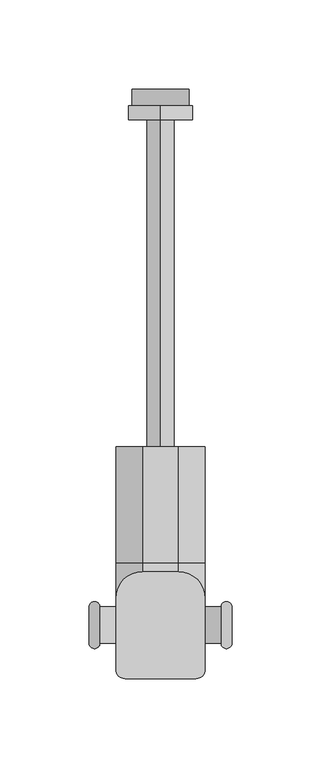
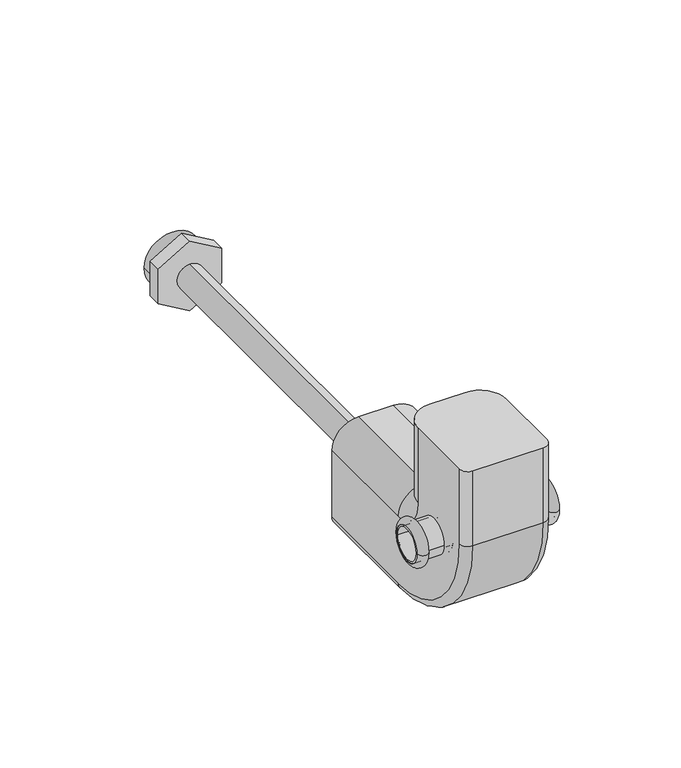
"""IFC4 building model written with IfcOpenShell, lengths in millimetres: pipe fitting geometry."""

from ifc_helpers import new_model, si_unit, point, frame, origin, place, context, project, spatial, polyline, circle_curve, ellipse_curve, trimmed, outline, extrude, source, transform, mapped, element, save
from ifc_brep_helpers import plane_surface, cylinder_surface, revolved_surface, advanced_brep


def pipe_fitting_d5600d2a(model_context):
    return source(origin(), model_context, "Body", "SolidModel", [
        extrude(outline(polyline([(-35.3923048, -18.0), (-45.7846097, 0.0), (-35.3923048, 18.0), (-14.6076952, 18.0), (-4.2153903, 0.0), (-14.6076952, -18.0), (-35.3923048, -18.0)])), frame((0.0, 282.8269269, 0.0), z_axis=(0.0, 1.0, 0.0), x_axis=(0.0, 0.0, 1.0)), (0.0, 0.0, 1.0), 8.0),
        advanced_brep(
        [(-16.0, 290.8269269, -25.0), (16.0, 290.8269269, -25.0), (0.0, 290.8269269, -25.0), (-16.0, 300.0, -25.0), (16.0, 300.0, -25.0), (0.0, 300.0, -25.0)],
        [
            (0, 1, circle_curve(frame((0.0, 290.8269269, -25.0), z_axis=(0.0, -1.0, 0.0), x_axis=(1.0, 0.0, 0.0)), 16.0)),
            (1, 2),
            (2, 0),
            (1, 0, circle_curve(frame((0.0, 290.8269269, -25.0), z_axis=(0.0, -1.0, 0.0), x_axis=(1.0, 0.0, 0.0)), 16.0)),
            (3, 4, circle_curve(frame((0.0, 300.0, -25.0), z_axis=(0.0, -1.0, 0.0), x_axis=(1.0, 0.0, 0.0)), 16.0)),
            (4, 1),
            (0, 3),
            (4, 3, circle_curve(frame((0.0, 300.0, -25.0), z_axis=(0.0, -1.0, 0.0), x_axis=(1.0, 0.0, 0.0)), 16.0)),
            (5, 4),
            (3, 5),
        ],
        [
            plane_surface(frame((0.0, 290.8269269, -25.0), z_axis=(0.0, -1.0, 0.0), x_axis=(1.0, 0.0, 0.0))),
            cylinder_surface(frame((0.0, -1709.1730731, -25.0), z_axis=(0.0, 1.0, 0.0), x_axis=(1.0, 0.0, 0.0)), 16.0),
            plane_surface(frame((0.0, 300.0, -25.0), z_axis=(0.0, 1.0, 0.0), x_axis=(1.0, 0.0, 0.0))),
        ],
        [
            (0, [[1, 2, 3]]),
            (0, [[4, -3, -2]]),
            (1, [[5, 6, -1, 7]]),
            (1, [[8, -7, -4, -6]]),
            (2, [[9, -5, 10]]),
            (2, [[-10, -8, -9]]),
        ],
    ),
        advanced_brep(
        [(40.0, 10.2, 0.0), (33.9987073, 10.2, 0.0), (33.9987073, -10.2, 0.0), (40.0, -10.2, 0.0)],
        [
            (0, 1),
            (1, 2, circle_curve(frame((33.9987073, 0.0, 0.0), z_axis=(-1.0, 0.0, 0.0), x_axis=(0.0, -1.0, 0.0)), 10.2)),
            (2, 3),
            (3, 0, circle_curve(frame((40.0, 0.0, 0.0), z_axis=(1.0, 0.0, 0.0), x_axis=(0.0, -1.0, 0.0)), 10.2)),
            (2, 1, circle_curve(frame((33.9987073, 0.0, 0.0), z_axis=(-1.0, 0.0, 0.0), x_axis=(0.0, -1.0, 0.0)), 10.2)),
            (0, 3, circle_curve(frame((40.0, 0.0, 0.0), z_axis=(1.0, 0.0, 0.0), x_axis=(0.0, -1.0, 0.0)), 10.2)),
            (1, 0, circle_curve(frame((36.9993536, 10.2, 0.0), z_axis=(0.0, 0.0, -1.0), x_axis=(1.0, 0.0, 0.0)), 3.0006464)),
            (3, 2, circle_curve(frame((36.9993536, -10.2, 0.0), z_axis=(0.0, 0.0, -1.0), x_axis=(1.0, 0.0, 0.0)), 3.0006464)),
        ],
        [
            revolved_surface(polyline([(33.9987073, -10.2, 0.0), (40.0, -10.2, 0.0)]), (20.0, 0.0, 0.0), (-1.0, 0.0, 0.0)),
            revolved_surface(trimmed(ellipse_curve(frame((36.9993536, -10.2, 0.0), z_axis=(0.0, 0.0, -1.0), x_axis=(1.0, 0.0, 0.0)), 3.0006464, 3.0006464), [point((40.0, -10.2, 0.0))], [point((33.9987073, -10.2, 0.0))], True, "CARTESIAN"), (20.0, 0.0, 0.0), (-1.0, 0.0, 0.0)),
        ],
        [
            (0, [[1, 2, 3, 4]]),
            (0, [[-3, 5, -1, 6]]),
            (1, [[7, -4, 8, -2]]),
            (1, [[-8, -6, -7, -5]]),
        ],
    ),
        advanced_brep(
        [(40.0, 9.0, 0.0), (19.0, 9.0, 0.0), (19.0, -9.0, 0.0), (40.0, -9.0, 0.0), (40.0, 10.2, 0.0), (40.0, -10.2, 0.0), (20.0, 10.2, 0.0), (20.0, -10.2, 0.0)],
        [
            (0, 1),
            (1, 2, circle_curve(frame((19.0, 0.0, 0.0), z_axis=(-1.0, 0.0, 0.0), x_axis=(0.0, -1.0, 0.0)), 9.0)),
            (2, 3),
            (3, 0, circle_curve(frame((40.0, 0.0, 0.0), z_axis=(1.0, 0.0, 0.0), x_axis=(0.0, -1.0, 0.0)), 9.0)),
            (2, 1, circle_curve(frame((19.0, 0.0, 0.0), z_axis=(-1.0, 0.0, 0.0), x_axis=(0.0, -1.0, 0.0)), 9.0)),
            (0, 3, circle_curve(frame((40.0, 0.0, 0.0), z_axis=(1.0, 0.0, 0.0), x_axis=(0.0, -1.0, 0.0)), 9.0)),
            (4, 0),
            (3, 5),
            (5, 4, circle_curve(frame((40.0, 0.0, 0.0), z_axis=(1.0, 0.0, 0.0), x_axis=(0.0, -1.0, 0.0)), 10.2)),
            (4, 5, circle_curve(frame((40.0, 0.0, 0.0), z_axis=(1.0, 0.0, 0.0), x_axis=(0.0, -1.0, 0.0)), 10.2)),
            (6, 4),
            (5, 7),
            (7, 6, circle_curve(frame((20.0, 0.0, 0.0), z_axis=(1.0, 0.0, 0.0), x_axis=(0.0, -1.0, 0.0)), 10.2)),
            (6, 7, circle_curve(frame((20.0, 0.0, 0.0), z_axis=(1.0, 0.0, 0.0), x_axis=(0.0, -1.0, 0.0)), 10.2)),
            (1, 6),
            (7, 2),
        ],
        [
            revolved_surface(polyline([(19.0, -9.0, 0.0), (40.0, -9.0, 0.0)]), (20.0, 0.0, 0.0), (-1.0, 0.0, 0.0)),
            plane_surface(frame((40.0, 0.0, 0.0), z_axis=(1.0, 0.0, 0.0), x_axis=(0.0, -1.0, 0.0))),
            cylinder_surface(frame((20.0, 0.0, 0.0), z_axis=(-1.0, 0.0, 0.0), x_axis=(0.0, -1.0, 0.0)), 10.2),
            revolved_surface(polyline([(20.0, -10.2, 0.0), (19.0, -9.0, 0.0)]), (20.0, 0.0, 0.0), (-1.0, 0.0, 0.0)),
        ],
        [
            (0, [[1, 2, 3, 4]]),
            (0, [[-3, 5, -1, 6]]),
            (1, [[7, -4, 8, 9]]),
            (1, [[-8, -6, -7, 10]]),
            (2, [[11, -9, 12, 13]]),
            (2, [[-12, -10, -11, 14]]),
            (3, [[15, -13, 16, -2]]),
            (3, [[-16, -14, -15, -5]]),
        ],
    ),
        advanced_brep(
        [(-40.0, 10.2, 0.0), (-40.0, -10.2, 0.0), (-33.9987073, -10.2, 0.0), (-33.9987073, 10.2, 0.0)],
        [
            (0, 1, circle_curve(frame((-40.0, 0.0, 0.0), z_axis=(-1.0, 0.0, 0.0), x_axis=(0.0, -1.0, 0.0)), 10.2)),
            (1, 2),
            (2, 3, circle_curve(frame((-33.9987073, 0.0, 0.0), z_axis=(1.0, 0.0, 0.0), x_axis=(0.0, -1.0, 0.0)), 10.2)),
            (3, 0),
            (1, 0, circle_curve(frame((-40.0, 0.0, 0.0), z_axis=(-1.0, 0.0, 0.0), x_axis=(0.0, -1.0, 0.0)), 10.2)),
            (3, 2, circle_curve(frame((-33.9987073, 0.0, 0.0), z_axis=(1.0, 0.0, 0.0), x_axis=(0.0, -1.0, 0.0)), 10.2)),
            (2, 1, circle_curve(frame((-36.9993536, -10.2, 0.0), z_axis=(0.0, 0.0, -1.0), x_axis=(-1.0, 0.0, 0.0)), 3.0006464)),
            (0, 3, circle_curve(frame((-36.9993536, 10.2, 0.0), z_axis=(0.0, 0.0, -1.0), x_axis=(-1.0, 0.0, 0.0)), 3.0006464)),
        ],
        [
            revolved_surface(polyline([(-33.9987073, -10.2, 0.0), (-40.0, -10.2, 0.0)]), (-20.0, 0.0, 0.0), (1.0, 0.0, 0.0)),
            revolved_surface(trimmed(ellipse_curve(frame((-36.9993536, -10.2, 0.0), z_axis=(0.0, 0.0, 1.0), x_axis=(-1.0, 0.0, 0.0)), 3.0006464, 3.0006464), [point((-40.0, -10.2, 0.0))], [point((-33.9987073, -10.2, 0.0))], True, "CARTESIAN"), (-20.0, 0.0, 0.0), (1.0, 0.0, 0.0)),
        ],
        [
            (0, [[1, 2, 3, 4]]),
            (0, [[5, -4, 6, -2]]),
            (1, [[-3, 7, -1, 8]]),
            (1, [[-6, -8, -5, -7]]),
        ],
    ),
        advanced_brep(
        [(-40.0, 9.0, 0.0), (-40.0, -9.0, 0.0), (-19.0, -9.0, 0.0), (-19.0, 9.0, 0.0), (-40.0, 10.2, 0.0), (-40.0, -10.2, 0.0), (-20.0, 10.2, 0.0), (-20.0, -10.2, 0.0)],
        [
            (0, 1, circle_curve(frame((-40.0, 0.0, 0.0), z_axis=(-1.0, 0.0, 0.0), x_axis=(0.0, -1.0, 0.0)), 9.0)),
            (1, 2),
            (2, 3, circle_curve(frame((-19.0, 0.0, 0.0), z_axis=(1.0, 0.0, 0.0), x_axis=(0.0, -1.0, 0.0)), 9.0)),
            (3, 0),
            (1, 0, circle_curve(frame((-40.0, 0.0, 0.0), z_axis=(-1.0, 0.0, 0.0), x_axis=(0.0, -1.0, 0.0)), 9.0)),
            (3, 2, circle_curve(frame((-19.0, 0.0, 0.0), z_axis=(1.0, 0.0, 0.0), x_axis=(0.0, -1.0, 0.0)), 9.0)),
            (4, 5, circle_curve(frame((-40.0, 0.0, 0.0), z_axis=(-1.0, 0.0, 0.0), x_axis=(0.0, -1.0, 0.0)), 10.2)),
            (5, 1),
            (0, 4),
            (5, 4, circle_curve(frame((-40.0, 0.0, 0.0), z_axis=(-1.0, 0.0, 0.0), x_axis=(0.0, -1.0, 0.0)), 10.2)),
            (6, 7, circle_curve(frame((-20.0, 0.0, 0.0), z_axis=(-1.0, 0.0, 0.0), x_axis=(0.0, -1.0, 0.0)), 10.2)),
            (7, 5),
            (4, 6),
            (7, 6, circle_curve(frame((-20.0, 0.0, 0.0), z_axis=(-1.0, 0.0, 0.0), x_axis=(0.0, -1.0, 0.0)), 10.2)),
            (2, 7),
            (6, 3),
        ],
        [
            revolved_surface(polyline([(-19.0, -9.0, 0.0), (-40.0, -9.0, 0.0)]), (-20.0, 0.0, 0.0), (1.0, 0.0, 0.0)),
            plane_surface(frame((-40.0, 0.0, 0.0), z_axis=(-1.0, 0.0, 0.0), x_axis=(0.0, -1.0, 0.0))),
            cylinder_surface(frame((-20.0, 0.0, 0.0), z_axis=(1.0, 0.0, 0.0), x_axis=(0.0, -1.0, 0.0)), 10.2),
            revolved_surface(polyline([(-20.0, -10.2, 0.0), (-19.0, -9.0, 0.0)]), (-20.0, 0.0, 0.0), (1.0, 0.0, 0.0)),
        ],
        [
            (0, [[1, 2, 3, 4]]),
            (0, [[5, -4, 6, -2]]),
            (1, [[7, 8, -1, 9]]),
            (1, [[10, -9, -5, -8]]),
            (2, [[11, 12, -7, 13]]),
            (2, [[14, -13, -10, -12]]),
            (3, [[-3, 15, -11, 16]]),
            (3, [[-6, -16, -14, -15]]),
        ],
    ),
        advanced_brep(
        [(10.0, 100.0, 5.0), (25.0, 100.0, -10.0), (25.0, 100.0, -50.0), (20.0, 100.0, -55.0), (-20.0, 100.0, -55.0), (-25.0, 100.0, -50.0), (-25.0, 100.0, -10.0), (-10.0, 100.0, 5.0), (10.0, 35.0, 5.0), (25.0, 35.0, -10.0), (25.0, 15.0, 10.0), (25.0, 15.0, 55.0), (25.0, -25.0, 55.0), (25.0, -25.0, 10.0), (25.0, 35.0, -50.0), (25.0, 7.5, 0.0), (25.0, -7.5, 0.0), (20.0, 35.0, -55.0), (-20.0, 35.0, -55.0), (-25.0, 35.0, -50.0), (-25.0, -25.0, 10.0), (-25.0, -25.0, 55.0), (-25.0, 15.0, 55.0), (-25.0, 15.0, 10.0), (-25.0, 35.0, -10.0), (-25.0, -7.5, 0.0), (-25.0, 7.5, 0.0), (-10.0, 35.0, 5.0), (10.0, 30.0, 10.0), (20.0, -30.0, 10.0), (-20.0, -30.0, 10.0), (-10.0, 30.0, 10.0), (10.0, 30.0, 55.0), (-10.0, 30.0, 55.0), (-20.0, -30.0, 55.0), (20.0, -30.0, 55.0), (20.0, 7.5, 0.0), (20.0, -7.5, 0.0), (20.0, 0.0, 0.0), (-20.0, -7.5, 0.0), (-20.0, 0.0, 0.0), (-20.0, 7.5, 0.0)],
        [
            (0, 1, circle_curve(frame((10.0, 100.0, -10.0), z_axis=(0.0, 1.0, 0.0), x_axis=(0.0, 0.0, -1.0)), 15.0)),
            (1, 2),
            (2, 3, circle_curve(frame((20.0, 100.0, -50.0), z_axis=(0.0, 1.0, 0.0), x_axis=(0.0, 0.0, -1.0)), 5.0)),
            (3, 4),
            (4, 5, circle_curve(frame((-20.0, 100.0, -50.0), z_axis=(0.0, 1.0, 0.0), x_axis=(0.0, 0.0, -1.0)), 5.0)),
            (5, 6),
            (6, 7, circle_curve(frame((-10.0, 100.0, -10.0), z_axis=(0.0, 1.0, 0.0), x_axis=(0.0, 0.0, -1.0)), 15.0)),
            (7, 0),
            (0, 8),
            (8, 9, circle_curve(frame((10.0, 35.0, -10.0), z_axis=(0.0, 1.0, 0.0), x_axis=(0.0, 0.0, -1.0)), 15.0)),
            (9, 1),
            (9, 10, circle_curve(frame((25.0, 35.0, 10.0), z_axis=(-1.0, 0.0, 0.0), x_axis=(0.0, 0.0, -1.0)), 20.0)),
            (10, 11),
            (11, 12),
            (12, 13),
            (13, 14, circle_curve(frame((25.0, 35.0, 10.0), z_axis=(1.0, 0.0, 0.0), x_axis=(0.0, 0.0, -1.0)), 60.0)),
            (14, 2),
            (15, 16, circle_curve(frame((25.0, 0.0, 0.0), z_axis=(-1.0, 0.0, 0.0), x_axis=(0.0, 1.0, 0.0)), 7.5)),
            (16, 15, circle_curve(frame((25.0, 0.0, 0.0), z_axis=(-1.0, 0.0, 0.0), x_axis=(0.0, 1.0, 0.0)), 7.5)),
            (14, 17, circle_curve(frame((20.0, 35.0, -50.0), z_axis=(0.0, 1.0, 0.0), x_axis=(0.0, 0.0, -1.0)), 5.0)),
            (17, 3),
            (17, 18),
            (18, 4),
            (18, 19, circle_curve(frame((-20.0, 35.0, -50.0), z_axis=(0.0, 1.0, 0.0), x_axis=(0.0, 0.0, -1.0)), 5.0)),
            (19, 5),
            (19, 20, circle_curve(frame((-25.0, 35.0, 10.0), z_axis=(-1.0, 0.0, 0.0), x_axis=(0.0, 0.0, -1.0)), 60.0)),
            (20, 21),
            (21, 22),
            (22, 23),
            (23, 24, circle_curve(frame((-25.0, 35.0, 10.0), z_axis=(1.0, 0.0, 0.0), x_axis=(0.0, 0.0, -1.0)), 20.0)),
            (24, 6),
            (25, 26, circle_curve(frame((-25.0, 0.0, 0.0), z_axis=(1.0, 0.0, 0.0), x_axis=(0.0, 1.0, 0.0)), 7.5)),
            (26, 25, circle_curve(frame((-25.0, 0.0, 0.0), z_axis=(1.0, 0.0, 0.0), x_axis=(0.0, 1.0, 0.0)), 7.5)),
            (24, 27, circle_curve(frame((-10.0, 35.0, -10.0), z_axis=(0.0, 1.0, 0.0), x_axis=(0.0, 0.0, -1.0)), 15.0)),
            (27, 7),
            (27, 8),
            (8, 28, circle_curve(frame((10.0, 35.0, 10.0), z_axis=(-1.0, 0.0, 0.0), x_axis=(0.0, 0.0, -1.0)), 5.0)),
            (28, 10, circle_curve(frame((10.0, 15.0, 10.0), z_axis=(0.0, 0.0, -1.0), x_axis=(0.0, -1.0, 0.0)), 15.0)),
            (13, 29, circle_curve(frame((20.0, -25.0, 10.0), z_axis=(0.0, 0.0, -1.0), x_axis=(0.0, -1.0, 0.0)), 5.0)),
            (29, 17, circle_curve(frame((20.0, 35.0, 10.0), z_axis=(1.0, 0.0, 0.0), x_axis=(0.0, 0.0, -1.0)), 65.0)),
            (29, 30),
            (30, 18, circle_curve(frame((-20.0, 35.0, 10.0), z_axis=(1.0, 0.0, 0.0), x_axis=(0.0, 0.0, -1.0)), 65.0)),
            (30, 20, circle_curve(frame((-20.0, -25.0, 10.0), z_axis=(0.0, 0.0, -1.0), x_axis=(0.0, -1.0, 0.0)), 5.0)),
            (23, 31, circle_curve(frame((-10.0, 15.0, 10.0), z_axis=(0.0, 0.0, -1.0), x_axis=(0.0, -1.0, 0.0)), 15.0)),
            (31, 27, circle_curve(frame((-10.0, 35.0, 10.0), z_axis=(1.0, 0.0, 0.0), x_axis=(0.0, 0.0, -1.0)), 5.0)),
            (31, 28),
            (11, 32, circle_curve(frame((10.0, 15.0, 55.0), z_axis=(0.0, 0.0, 1.0), x_axis=(0.0, -1.0, 0.0)), 15.0)),
            (32, 33),
            (33, 22, circle_curve(frame((-10.0, 15.0, 55.0), z_axis=(0.0, 0.0, 1.0), x_axis=(0.0, -1.0, 0.0)), 15.0)),
            (21, 34, circle_curve(frame((-20.0, -25.0, 55.0), z_axis=(0.0, 0.0, 1.0), x_axis=(0.0, -1.0, 0.0)), 5.0)),
            (34, 35),
            (35, 12, circle_curve(frame((20.0, -25.0, 55.0), z_axis=(0.0, 0.0, 1.0), x_axis=(0.0, -1.0, 0.0)), 5.0)),
            (28, 32),
            (35, 29),
            (34, 30),
            (33, 31),
            (36, 37, circle_curve(frame((20.0, 0.0, 0.0), z_axis=(-1.0, 0.0, 0.0), x_axis=(0.0, 1.0, 0.0)), 7.5)),
            (37, 16),
            (15, 36),
            (37, 36, circle_curve(frame((20.0, 0.0, 0.0), z_axis=(-1.0, 0.0, 0.0), x_axis=(0.0, 1.0, 0.0)), 7.5)),
            (36, 38),
            (38, 37),
            (39, 40),
            (40, 41),
            (41, 39, circle_curve(frame((-20.0, 0.0, 0.0), z_axis=(-1.0, 0.0, 0.0), x_axis=(0.0, 1.0, 0.0)), 7.5)),
            (39, 41, circle_curve(frame((-20.0, 0.0, 0.0), z_axis=(-1.0, 0.0, 0.0), x_axis=(0.0, 1.0, 0.0)), 7.5)),
            (41, 26),
            (25, 39),
        ],
        [
            plane_surface(frame((0.0, 100.0, -25.0), z_axis=(0.0, 1.0, 0.0), x_axis=(1.0, 0.0, 0.0))),
            cylinder_surface(frame((10.0, 100.0, -10.0), z_axis=(0.0, 1.0, 0.0), x_axis=(0.0, 0.0, -1.0)), 15.0),
            plane_surface(frame((25.0, 100.0, -10.0), z_axis=(1.0, 0.0, 0.0), x_axis=(0.0, -1.0, 0.0))),
            cylinder_surface(frame((20.0, 100.0, -50.0), z_axis=(0.0, 1.0, 0.0), x_axis=(0.0, 0.0, -1.0)), 5.0),
            plane_surface(frame((20.0, 100.0, -55.0), z_axis=(0.0, 0.0, -1.0), x_axis=(0.0, -1.0, 0.0))),
            cylinder_surface(frame((-20.0, 100.0, -50.0), z_axis=(0.0, 1.0, 0.0), x_axis=(0.0, 0.0, -1.0)), 5.0),
            plane_surface(frame((-25.0, 100.0, -50.0), z_axis=(-1.0, 0.0, 0.0), x_axis=(0.0, -1.0, 0.0))),
            cylinder_surface(frame((-10.0, 100.0, -10.0), z_axis=(0.0, 1.0, 0.0), x_axis=(0.0, 0.0, -1.0)), 15.0),
            plane_surface(frame((-10.0, 100.0, 5.0), z_axis=(0.0, 0.0, 1.0), x_axis=(0.0, -1.0, 0.0))),
            revolved_surface(trimmed(ellipse_curve(frame((10.0, 35.0, -10.0), z_axis=(0.0, 1.0, 0.0), x_axis=(0.0, 0.0, -1.0)), 15.0, 15.0), [point((10.0, 35.0, 5.0))], [point((25.0, 35.0, -10.0))], True, "CARTESIAN"), (0.0, 35.0, 10.0), (-1.0, 0.0, 0.0)),
            revolved_surface(trimmed(ellipse_curve(frame((20.0, 35.0, -50.0), z_axis=(0.0, 1.0, 0.0), x_axis=(0.0, 0.0, -1.0)), 5.0, 5.0), [point((25.0, 35.0, -50.0))], [point((20.0, 35.0, -55.0))], True, "CARTESIAN"), (0.0, 35.0, 10.0), (-1.0, 0.0, 0.0)),
            cylinder_surface(frame((0.0, 35.0, 10.0), z_axis=(-1.0, 0.0, 0.0), x_axis=(0.0, 0.0, -1.0)), 65.0),
            revolved_surface(trimmed(ellipse_curve(frame((-20.0, 35.0, -50.0), z_axis=(0.0, 1.0, 0.0), x_axis=(0.0, 0.0, -1.0)), 5.0, 5.0), [point((-20.0, 35.0, -55.0))], [point((-25.0, 35.0, -50.0))], True, "CARTESIAN"), (0.0, 35.0, 10.0), (-1.0, 0.0, 0.0)),
            revolved_surface(trimmed(ellipse_curve(frame((-10.0, 35.0, -10.0), z_axis=(0.0, 1.0, 0.0), x_axis=(0.0, 0.0, -1.0)), 15.0, 15.0), [point((-25.0, 35.0, -10.0))], [point((-10.0, 35.0, 5.0))], True, "CARTESIAN"), (0.0, 35.0, 10.0), (-1.0, 0.0, 0.0)),
            revolved_surface(polyline([(-10.0, 35.0, 5.0), (10.0, 35.0, 5.0)]), (0.0, 35.0, 10.0), (-1.0, 0.0, 0.0)),
            plane_surface(frame((0.0, 0.0, 55.0), z_axis=(0.0, 0.0, 1.0), x_axis=(1.0, 0.0, 0.0))),
            cylinder_surface(frame((10.0, 15.0, 10.0), z_axis=(0.0, 0.0, -1.0), x_axis=(0.0, -1.0, 0.0)), 15.0),
            cylinder_surface(frame((20.0, -25.0, 10.0), z_axis=(0.0, 0.0, -1.0), x_axis=(0.0, -1.0, 0.0)), 5.0),
            plane_surface(frame((20.0, -30.0, 10.0), z_axis=(0.0, -1.0, 0.0), x_axis=(0.0, 0.0, 1.0))),
            cylinder_surface(frame((-20.0, -25.0, 10.0), z_axis=(0.0, 0.0, -1.0), x_axis=(0.0, -1.0, 0.0)), 5.0),
            cylinder_surface(frame((-10.0, 15.0, 10.0), z_axis=(0.0, 0.0, -1.0), x_axis=(0.0, -1.0, 0.0)), 15.0),
            plane_surface(frame((-10.0, 30.0, 10.0), z_axis=(0.0, 1.0, 0.0), x_axis=(0.0, 0.0, 1.0))),
            revolved_surface(polyline([(20.0, 7.5, 0.0), (25.0, 7.5, 0.0)]), (0.0, 0.0, 0.0), (-1.0, 0.0, 0.0)),
            plane_surface(frame((20.0, 0.0, 0.0), z_axis=(1.0, 0.0, 0.0), x_axis=(0.0, 1.0, 0.0))),
            plane_surface(frame((-20.0, 0.0, 0.0), z_axis=(-1.0, 0.0, 0.0), x_axis=(0.0, 1.0, 0.0))),
            revolved_surface(polyline([(-25.0, 7.5, 0.0), (-20.0, 7.5, 0.0)]), (0.0, 0.0, 0.0), (-1.0, 0.0, 0.0)),
        ],
        [
            (0, [[1, 2, 3, 4, 5, 6, 7, 8]]),
            (1, [[-1, 9, 10, 11]]),
            (2, [[-2, -11, 12, 13, 14, 15, 16, 17], [18, 19]]),
            (3, [[-3, -17, 20, 21]]),
            (4, [[-4, -21, 22, 23]]),
            (5, [[-5, -23, 24, 25]]),
            (6, [[-6, -25, 26, 27, 28, 29, 30, 31], [32, 33]]),
            (7, [[-7, -31, 34, 35]]),
            (8, [[-8, -35, 36, -9]]),
            (9, [[-10, 37, 38, -12]]),
            (10, [[-16, 39, 40, -20]]),
            (11, [[-22, -40, 41, 42]]),
            (12, [[-24, -42, 43, -26]]),
            (13, [[-30, 44, 45, -34]]),
            (14, [[-36, -45, 46, -37]]),
            (15, [[-14, 47, 48, 49, -28, 50, 51, 52]]),
            (16, [[-13, -38, 53, -47]]),
            (17, [[-15, -52, 54, -39]]),
            (18, [[-41, -54, -51, 55]]),
            (19, [[-27, -43, -55, -50]]),
            (20, [[-29, -49, 56, -44]]),
            (21, [[-46, -56, -48, -53]]),
            (22, [[57, 58, -18, 59]]),
            (22, [[60, -59, -19, -58]]),
            (23, [[-57, 61, 62]]),
            (23, [[-60, -62, -61]]),
            (24, [[63, 64, 65]]),
            (24, [[-63, 66, -64]]),
            (25, [[-65, 67, -32, 68]]),
            (25, [[-66, -68, -33, -67]]),
        ],
    ),
        advanced_brep(
        [(-20.0, -7.5, 0.0), (-20.0, 7.5, 0.0), (20.0, -7.5, 0.0), (20.0, 7.5, 0.0), (5.3033009, 7.5, 0.0), (0.0, 5.3033009, 5.3033009), (-5.3033009, 7.5, 0.0), (0.0, -5.3033009, -5.3033009), (0.0, 282.8269269, -17.5), (0.0, 282.8269269, -32.5), (0.0, 45.7106781, -17.5), (0.0, 45.7106781, -32.5), (0.0, 5.0520382, -15.6586399), (0.0, 15.6586399, -5.0520382)],
        [
            (0, 1, circle_curve(frame((-20.0, 0.0, 0.0), z_axis=(-1.0, 0.0, 0.0), x_axis=(0.0, 1.0, 0.0)), 7.5)),
            (1, 0, circle_curve(frame((-20.0, 0.0, 0.0), z_axis=(-1.0, 0.0, 0.0), x_axis=(0.0, 1.0, 0.0)), 7.5)),
            (2, 3, circle_curve(frame((20.0, 0.0, 0.0), z_axis=(1.0, 0.0, 0.0), x_axis=(0.0, 1.0, 0.0)), 7.5)),
            (3, 2, circle_curve(frame((20.0, 0.0, 0.0), z_axis=(1.0, 0.0, 0.0), x_axis=(0.0, 1.0, 0.0)), 7.5)),
            (0, 2),
            (3, 4),
            (4, 5, ellipse_curve(frame((0.0, 0.0, 0.0), z_axis=(0.7071067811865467, -0.49999999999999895, 0.5000000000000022), x_axis=(-0.7071067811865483, -0.4999999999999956, 0.5000000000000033)), 10.6066017, 7.5)),
            (5, 6, ellipse_curve(frame((0.0, 0.0, 0.0), z_axis=(-0.7071067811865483, -0.4999999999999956, 0.5000000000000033), x_axis=(-0.7071067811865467, 0.49999999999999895, -0.5000000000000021)), 10.6066017, 7.5)),
            (6, 1),
            (6, 7, ellipse_curve(frame((0.0, 0.0, 0.0), z_axis=(-0.7071067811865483, -0.4999999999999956, 0.5000000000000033), x_axis=(-0.7071067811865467, 0.49999999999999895, -0.5000000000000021)), 10.6066017, 7.5)),
            (7, 4, ellipse_curve(frame((0.0, 0.0, 0.0), z_axis=(0.7071067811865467, -0.49999999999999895, 0.5000000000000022), x_axis=(-0.7071067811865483, -0.4999999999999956, 0.5000000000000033)), 10.6066017, 7.5)),
            (8, 9, circle_curve(frame((0.0, 282.8269269, -25.0), z_axis=(0.0, 1.0, 0.0), x_axis=(0.0, 0.0, -1.0)), 7.5)),
            (9, 8, circle_curve(frame((0.0, 282.8269269, -25.0), z_axis=(0.0, 1.0, 0.0), x_axis=(0.0, 0.0, -1.0)), 7.5)),
            (8, 10),
            (10, 11, circle_curve(frame((0.0, 45.7106781, -25.0), z_axis=(0.0, 1.0, 0.0), x_axis=(0.0, 0.0, -1.0)), 7.5)),
            (11, 9),
            (11, 10, circle_curve(frame((0.0, 45.7106781, -25.0), z_axis=(0.0, 1.0, 0.0), x_axis=(0.0, 0.0, -1.0)), 7.5)),
            (12, 13, circle_curve(frame((0.0, 10.3553391, -10.3553391), z_axis=(0.0, -0.7071067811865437, 0.7071067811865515), x_axis=(0.0, -0.7071067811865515, -0.7071067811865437)), 7.5)),
            (13, 5),
            (7, 12),
            (13, 12, circle_curve(frame((0.0, 10.3553391, -10.3553391), z_axis=(0.0, -0.7071067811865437, 0.7071067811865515), x_axis=(0.0, -0.7071067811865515, -0.7071067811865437)), 7.5)),
            (10, 13, circle_curve(frame((0.0, 45.7106781, 25.0), z_axis=(-1.0, 0.0, 0.0), x_axis=(0.0, 0.0, -1.0)), 42.5)),
            (12, 11, circle_curve(frame((0.0, 45.7106781, 25.0), z_axis=(1.0, 0.0, 0.0), x_axis=(0.0, 0.0, -1.0)), 57.5)),
        ],
        [
            plane_surface(frame((-20.0, 0.0, 0.0), z_axis=(-1.0, 0.0, 0.0), x_axis=(0.0, 0.0, 1.0))),
            plane_surface(frame((20.0, 0.0, 0.0), z_axis=(1.0, 0.0, 0.0), x_axis=(0.0, 0.0, 1.0))),
            cylinder_surface(frame((-20.0, 0.0, 0.0), z_axis=(-1.0, 0.0, 0.0), x_axis=(0.0, 1.0, 0.0)), 7.5),
            plane_surface(frame((0.0, 282.8269269, -25.0), z_axis=(0.0, 1.0, 0.0), x_axis=(1.0, 0.0, 0.0))),
            cylinder_surface(frame((0.0, 282.8269269, -25.0), z_axis=(0.0, 1.0, 0.0), x_axis=(0.0, 0.0, -1.0)), 7.5),
            cylinder_surface(frame((0.0, 10.3553391, -10.3553391), z_axis=(0.0, 0.7071067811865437, -0.7071067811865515), x_axis=(0.0, -0.7071067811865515, -0.7071067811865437)), 7.5),
            revolved_surface(trimmed(ellipse_curve(frame((0.0, 45.7106781, -25.0), z_axis=(0.0, 1.0, 0.0), x_axis=(0.0, 0.0, -1.0)), 7.5, 7.5), [point((0.0, 45.7106781, -17.5))], [point((0.0, 45.7106781, -32.5))], True, "CARTESIAN"), (0.0, 45.7106781, 25.0), (-1.0, 0.0, 0.0)),
            revolved_surface(trimmed(ellipse_curve(frame((0.0, 45.7106781, -25.0), z_axis=(0.0, 1.0, 0.0), x_axis=(0.0, 0.0, -1.0)), 7.5, 7.5), [point((0.0, 45.7106781, -32.5))], [point((0.0, 45.7106781, -17.5))], True, "CARTESIAN"), (0.0, 45.7106781, 25.0), (-1.0, 0.0, 0.0)),
        ],
        [
            (0, [[1, 2]]),
            (1, [[3, 4]]),
            (2, [[-1, 5, -4, 6, 7, 8, 9]]),
            (2, [[-2, -9, 10, 11, -6, -3, -5]]),
            (3, [[12, 13]]),
            (4, [[-12, 14, 15, 16]]),
            (4, [[-13, -16, 17, -14]]),
            (5, [[18, 19, -7, -11, 20]]),
            (5, [[-19, 21, -20, -10, -8]]),
            (6, [[-15, 22, -18, 23]]),
            (7, [[-17, -23, -21, -22]]),
        ],
    ),
    ])


if __name__ == "__main__":
    model = new_model("IFC4")
    model_context = context("Model", 3, world=origin())
    ifc_project = project(units=[si_unit("LENGTHUNIT", "METRE", prefix="MILLI")], contexts=[model_context])
    site = spatial("IfcSite", under=ifc_project)
    building = spatial("IfcBuilding", under=site)
    placement = place(None, origin())
    pipe_fitting_shape = pipe_fitting_d5600d2a(model_context)
    element("IfcPipeFitting", 1, ObjectType="NLRS_50_PIF_UN_Geberit Mapress radiatoraansluit-T-stuk met isolatiebox en schroefaansluiting voor Euroconus_PRO_1079243 : DN12-15-G3/4\" / d15-18-G3/4\" - OD", at=placement, inside=building, context=model_context, shape_type="MappedRepresentation", body=[
        mapped(pipe_fitting_shape, transform((0.0, 0.0, 0.0), x_axis=(1.0, 0.0, 0.0), y_axis=(0.0, 1.0, 0.0), z_axis=(0.0, 0.0, 1.0))),
    ])
    save(model, "model.ifc")
